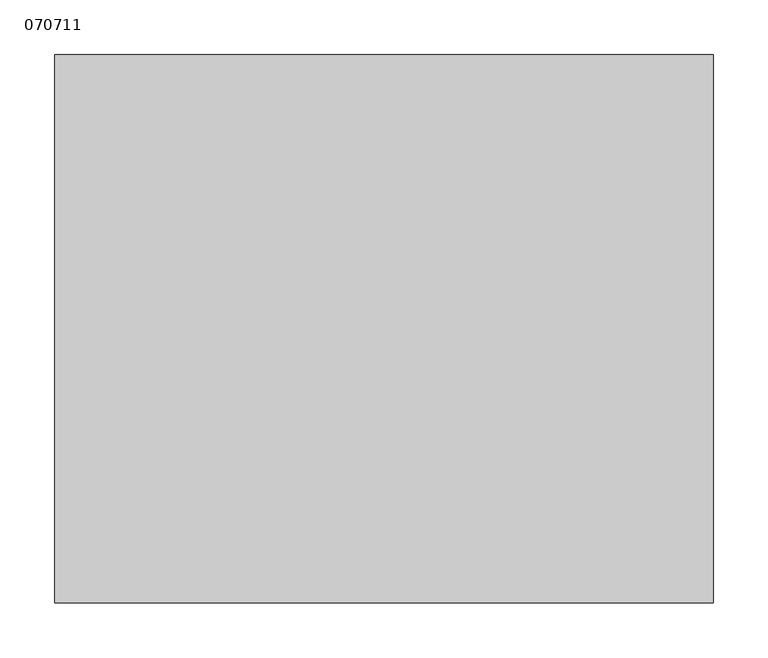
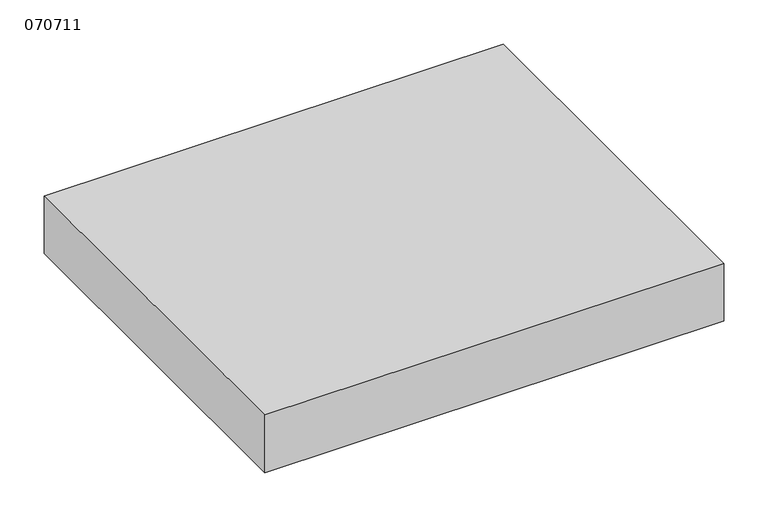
"""IFC4 building model written with IfcOpenShell, lengths in millimetres: proxy geometry, 070711 : Cale de blocage pour échelle."""

from ifc_helpers import new_model, si_unit, origin, origin_with_axes, place, context, project, spatial, polyline, outline, extrude, source, transform, mapped, element, save


def proxy_070711_0f77f756(model_context):
    return source(origin(), model_context, "Body", "SweptSolid", [
        extrude(outline(polyline([(600.0, 500.0), (600.0, 0.0), (0.0, 0.0), (0.0, 500.0), (600.0, 500.0)])), origin_with_axes(), (0.0, 0.0, 1.0), 80.0),
    ])


if __name__ == "__main__":
    model = new_model("IFC4")
    model_context = context("Model", 3, world=origin())
    ifc_project = project(units=[si_unit("LENGTHUNIT", "METRE", prefix="MILLI")], contexts=[model_context])
    site = spatial("IfcSite", under=ifc_project)
    building = spatial("IfcBuilding", under=site)
    placement = place(None, origin())
    proxy_070711_shape = proxy_070711_0f77f756(model_context)
    element("IfcBuildingElementProxy", 1, Name="070711 : Cale de blocage pour échelle", ObjectType="070711 : Cale de blocage pour échelle", at=placement, inside=building, context=model_context, shape_type="MappedRepresentation", body=[
        mapped(proxy_070711_shape, transform((0.0, 0.0, 0.0), x_axis=(1.0, 0.0, 0.0), y_axis=(0.0, 1.0, 0.0), z_axis=(0.0, 0.0, 1.0))),
    ])
    save(model, "model.ifc")
